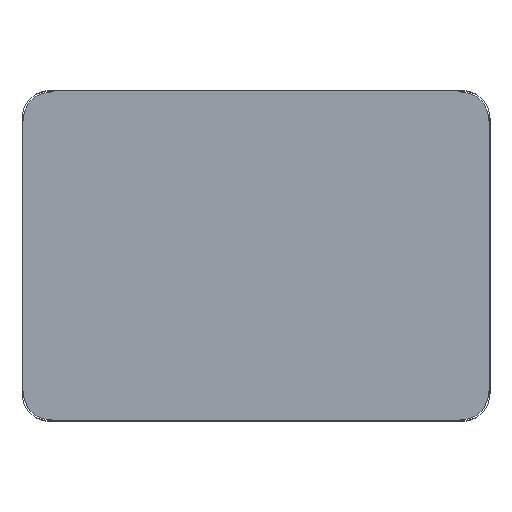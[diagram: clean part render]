
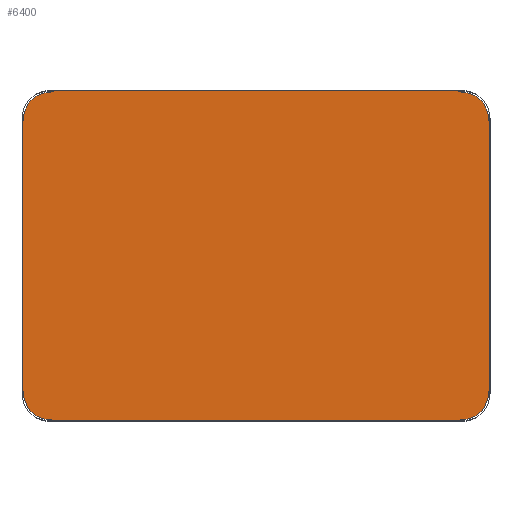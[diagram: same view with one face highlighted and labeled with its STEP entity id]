
A CAD part, top view. The second image highlights one B-rep face of the part: STEP entity #6400.
In plain terms, the highlighted planar face has unit normal (0, 0, 1).
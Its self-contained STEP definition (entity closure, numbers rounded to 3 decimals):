
#4210=CARTESIAN_POINT('',(1515.824,-863.75,516.6));
#4220=DIRECTION('',(0.,0.,1.));
#4230=DIRECTION('',(0.5,-0.866,
0.));
#4240=AXIS2_PLACEMENT_3D('',#4210,#4220,#4230);
#4250=PLANE('',#4240);
#4260=CARTESIAN_POINT('',(1883.,-684.,516.6));
#4270=DIRECTION('',(0.,1.,0.));
#4280=VECTOR('',#4270,1.);
#4290=LINE('',#4260,#4280);
#4300=CARTESIAN_POINT('',(1883.,-836.343,516.6));
#4310=VERTEX_POINT('',#4300);
#4320=CARTESIAN_POINT('',(1883.,-351.657,516.6));
#4330=VERTEX_POINT('',#4320);
#4340=EDGE_CURVE('',#4310,#4330,#4290,.T.);
#4350=ORIENTED_EDGE('',*,*,#4340,.T.);
#4360=CARTESIAN_POINT('',(1880.,-836.343,516.6));
#4370=DIRECTION('',(0.,0.,-1.));
#4380=DIRECTION('',(-1.,0.,0.));
#4390=AXIS2_PLACEMENT_3D('',#4360,#4370,#4380);
#4400=CIRCLE('',#4390,3.);
#4410=CARTESIAN_POINT('',(1882.333,-838.229,516.6));
#4420=VERTEX_POINT('',#4410);
#4430=EDGE_CURVE('',#4310,#4420,#4400,.T.);
#4440=ORIENTED_EDGE('',*,*,#4430,.F.);
#4450=CARTESIAN_POINT('',(1887.,-842.,516.6));
#4460=DIRECTION('',(0.,0.,1.));
#4470=DIRECTION('',(-1.,0.,0.));
#4480=AXIS2_PLACEMENT_3D('',#4450,#4460,#4470);
#4490=CIRCLE('',#4480,6.);
#4500=CARTESIAN_POINT('',(1881.,-842.,516.6));
#4510=VERTEX_POINT('',#4500);
#4520=EDGE_CURVE('',#4420,#4510,#4490,.T.);
#4530=ORIENTED_EDGE('',*,*,#4520,.F.);
#4540=CARTESIAN_POINT('',(1831.,-842.,516.6));
#4550=DIRECTION('',(0.,0.,-1.));
#4560=DIRECTION('',(-1.,0.,0.));
#4570=AXIS2_PLACEMENT_3D('',#4540,#4550,#4560);
#4580=CIRCLE('',#4570,50.);
#4590=CARTESIAN_POINT('',(1831.,-892.,516.6));
#4600=VERTEX_POINT('',#4590);
#4610=EDGE_CURVE('',#4510,#4600,#4580,.T.);
#4620=ORIENTED_EDGE('',*,*,#4610,.F.);
#4630=CARTESIAN_POINT('',(1831.,-898.,516.6));
#4640=DIRECTION('',(0.,0.,1.));
#4650=DIRECTION('',(-1.,0.,0.));
#4660=AXIS2_PLACEMENT_3D('',#4630,#4640,#4650);
#4670=CIRCLE('',#4660,6.);
#4680=CARTESIAN_POINT('',(1827.229,-893.333,516.6));
#4690=VERTEX_POINT('',#4680);
#4700=EDGE_CURVE('',#4600,#4690,#4670,.T.);
#4710=ORIENTED_EDGE('',*,*,#4700,.F.);
#4720=CARTESIAN_POINT('',(1825.343,-891.,516.6));
#4730=DIRECTION('',(0.,0.,-1.));
#4740=DIRECTION('',(-1.,0.,0.));
#4750=AXIS2_PLACEMENT_3D('',#4720,#4730,#4740);
#4760=CIRCLE('',#4750,3.);
#4770=CARTESIAN_POINT('',(1825.343,-894.,516.6));
#4780=VERTEX_POINT('',#4770);
#4790=EDGE_CURVE('',#4690,#4780,#4760,.T.);
#4800=ORIENTED_EDGE('',*,*,#4790,.F.);
#4810=CARTESIAN_POINT('',(1533.,-894.,516.6));
#4820=DIRECTION('',(1.,0.,0.));
#4830=VECTOR('',#4820,1.);
#4840=LINE('',#4810,#4830);
#4850=CARTESIAN_POINT('',(1090.657,-894.,516.6));
#4860=VERTEX_POINT('',#4850);
#4870=EDGE_CURVE('',#4860,#4780,#4840,.T.);
#4880=ORIENTED_EDGE('',*,*,#4870,.T.);
#4890=CARTESIAN_POINT('',(1090.657,-891.,516.6));
#4900=DIRECTION('',(0.,0.,-1.));
#4910=DIRECTION('',(-1.,0.,0.));
#4920=AXIS2_PLACEMENT_3D('',#4890,#4900,#4910);
#4930=CIRCLE('',#4920,3.);
#4940=CARTESIAN_POINT('',(1088.771,-893.333,516.6));
#4950=VERTEX_POINT('',#4940);
#4960=EDGE_CURVE('',#4860,#4950,#4930,.T.);
#4970=ORIENTED_EDGE('',*,*,#4960,.F.);
#4980=CARTESIAN_POINT('',(1085.,-898.,516.6));
#4990=DIRECTION('',(0.,0.,1.));
#5000=DIRECTION('',(-1.,0.,0.));
#5010=AXIS2_PLACEMENT_3D('',#4980,#4990,#5000);
#5020=CIRCLE('',#5010,6.);
#5030=CARTESIAN_POINT('',(1085.,-892.,516.6));
#5040=VERTEX_POINT('',#5030);
#5050=EDGE_CURVE('',#4950,#5040,#5020,.T.);
#5060=ORIENTED_EDGE('',*,*,#5050,.F.);
#5070=CARTESIAN_POINT('',(1085.,-842.,516.6));
#5080=DIRECTION('',(0.,0.,-1.));
#5090=DIRECTION('',(-1.,0.,0.));
#5100=AXIS2_PLACEMENT_3D('',#5070,#5080,#5090);
#5110=CIRCLE('',#5100,50.);
#5120=CARTESIAN_POINT('',(1035.,-842.,516.6));
#5130=VERTEX_POINT('',#5120);
#5140=EDGE_CURVE('',#5040,#5130,#5110,.T.);
#5150=ORIENTED_EDGE('',*,*,#5140,.F.);
#5160=CARTESIAN_POINT('',(1029.,-842.,516.6));
#5170=DIRECTION('',(0.,0.,1.));
#5180=DIRECTION('',(-1.,0.,0.));
#5190=AXIS2_PLACEMENT_3D('',#5160,#5170,#5180);
#5200=CIRCLE('',#5190,6.);
#5210=CARTESIAN_POINT('',(1033.667,-838.229,516.6));
#5220=VERTEX_POINT('',#5210);
#5230=EDGE_CURVE('',#5130,#5220,#5200,.T.);
#5240=ORIENTED_EDGE('',*,*,#5230,.F.);
#5250=CARTESIAN_POINT('',(1036.,-836.343,516.6));
#5260=DIRECTION('',(0.,0.,-1.));
#5270=DIRECTION('',(-1.,0.,0.));
#5280=AXIS2_PLACEMENT_3D('',#5250,#5260,#5270);
#5290=CIRCLE('',#5280,3.);
#5300=CARTESIAN_POINT('',(1033.,-836.343,516.6));
#5310=VERTEX_POINT('',#5300);
#5320=EDGE_CURVE('',#5220,#5310,#5290,.T.);
#5330=ORIENTED_EDGE('',*,*,#5320,.F.);
#5340=CARTESIAN_POINT('',(1033.,-684.,516.6));
#5350=DIRECTION('',(0.,-1.,0.));
#5360=VECTOR('',#5350,1.);
#5370=LINE('',#5340,#5360);
#5380=CARTESIAN_POINT('',(1033.,-351.657,516.6));
#5390=VERTEX_POINT('',#5380);
#5400=EDGE_CURVE('',#5390,#5310,#5370,.T.);
#5410=ORIENTED_EDGE('',*,*,#5400,.T.);
#5420=CARTESIAN_POINT('',(1036.,-351.657,516.6));
#5430=DIRECTION('',(0.,0.,-1.));
#5440=DIRECTION('',(-1.,0.,0.));
#5450=AXIS2_PLACEMENT_3D('',#5420,#5430,#5440);
#5460=CIRCLE('',#5450,3.);
#5470=CARTESIAN_POINT('',(1033.667,-349.771,516.6));
#5480=VERTEX_POINT('',#5470);
#5490=EDGE_CURVE('',#5390,#5480,#5460,.T.);
#5500=ORIENTED_EDGE('',*,*,#5490,.F.);
#5510=CARTESIAN_POINT('',(1029.,-346.,516.6));
#5520=DIRECTION('',(0.,0.,1.));
#5530=DIRECTION('',(-1.,0.,0.));
#5540=AXIS2_PLACEMENT_3D('',#5510,#5520,#5530);
#5550=CIRCLE('',#5540,6.);
#5560=CARTESIAN_POINT('',(1035.,-346.,516.6));
#5570=VERTEX_POINT('',#5560);
#5580=EDGE_CURVE('',#5480,#5570,#5550,.T.);
#5590=ORIENTED_EDGE('',*,*,#5580,.F.);
#5600=CARTESIAN_POINT('',(1085.,-346.,516.6));
#5610=DIRECTION('',(0.,0.,-1.));
#5620=DIRECTION('',(-1.,0.,0.));
#5630=AXIS2_PLACEMENT_3D('',#5600,#5610,#5620);
#5640=CIRCLE('',#5630,50.);
#5650=CARTESIAN_POINT('',(1085.,-296.,516.6));
#5660=VERTEX_POINT('',#5650);
#5670=EDGE_CURVE('',#5570,#5660,#5640,.T.);
#5680=ORIENTED_EDGE('',*,*,#5670,.F.);
#5690=CARTESIAN_POINT('',(1085.,-290.,516.6));
#5700=DIRECTION('',(0.,0.,1.));
#5710=DIRECTION('',(-1.,0.,0.));
#5720=AXIS2_PLACEMENT_3D('',#5690,#5700,#5710);
#5730=CIRCLE('',#5720,6.);
#5740=CARTESIAN_POINT('',(1088.771,-294.667,516.6));
#5750=VERTEX_POINT('',#5740);
#5760=EDGE_CURVE('',#5660,#5750,#5730,.T.);
#5770=ORIENTED_EDGE('',*,*,#5760,.F.);
#5780=CARTESIAN_POINT('',(1090.657,-297.,516.6));
#5790=DIRECTION('',(0.,0.,-1.));
#5800=DIRECTION('',(-1.,0.,0.));
#5810=AXIS2_PLACEMENT_3D('',#5780,#5790,#5800);
#5820=CIRCLE('',#5810,3.);
#5830=CARTESIAN_POINT('',(1090.657,-294.,516.6));
#5840=VERTEX_POINT('',#5830);
#5850=EDGE_CURVE('',#5750,#5840,#5820,.T.);
#5860=ORIENTED_EDGE('',*,*,#5850,.F.);
#5870=CARTESIAN_POINT('',(1533.,-294.,516.6));
#5880=DIRECTION('',(-1.,0.,0.));
#5890=VECTOR('',#5880,1.);
#5900=LINE('',#5870,#5890);
#5910=CARTESIAN_POINT('',(1825.343,-294.,516.6));
#5920=VERTEX_POINT('',#5910);
#5930=EDGE_CURVE('',#5920,#5840,#5900,.T.);
#5940=ORIENTED_EDGE('',*,*,#5930,.T.);
#5950=CARTESIAN_POINT('',(1825.343,-297.,516.6));
#5960=DIRECTION('',(0.,0.,-1.));
#5970=DIRECTION('',(-1.,0.,0.));
#5980=AXIS2_PLACEMENT_3D('',#5950,#5960,#5970);
#5990=CIRCLE('',#5980,3.);
#6000=CARTESIAN_POINT('',(1827.229,-294.667,516.6));
#6010=VERTEX_POINT('',#6000);
#6020=EDGE_CURVE('',#5920,#6010,#5990,.T.);
#6030=ORIENTED_EDGE('',*,*,#6020,.F.);
#6040=CARTESIAN_POINT('',(1831.,-290.,516.6));
#6050=DIRECTION('',(0.,0.,1.));
#6060=DIRECTION('',(-1.,0.,0.));
#6070=AXIS2_PLACEMENT_3D('',#6040,#6050,#6060);
#6080=CIRCLE('',#6070,6.);
#6090=CARTESIAN_POINT('',(1831.,-296.,516.6));
#6100=VERTEX_POINT('',#6090);
#6110=EDGE_CURVE('',#6010,#6100,#6080,.T.);
#6120=ORIENTED_EDGE('',*,*,#6110,.F.);
#6130=CARTESIAN_POINT('',(1831.,-346.,516.6));
#6140=DIRECTION('',(0.,0.,-1.));
#6150=DIRECTION('',(-1.,0.,0.));
#6160=AXIS2_PLACEMENT_3D('',#6130,#6140,#6150);
#6170=CIRCLE('',#6160,50.);
#6180=CARTESIAN_POINT('',(1881.,-346.,516.6));
#6190=VERTEX_POINT('',#6180);
#6200=EDGE_CURVE('',#6100,#6190,#6170,.T.);
#6210=ORIENTED_EDGE('',*,*,#6200,.F.);
#6220=CARTESIAN_POINT('',(1887.,-346.,516.6));
#6230=DIRECTION('',(0.,0.,1.));
#6240=DIRECTION('',(-1.,0.,0.));
#6250=AXIS2_PLACEMENT_3D('',#6220,#6230,#6240);
#6260=CIRCLE('',#6250,6.);
#6270=CARTESIAN_POINT('',(1882.333,-349.771,516.6));
#6280=VERTEX_POINT('',#6270);
#6290=EDGE_CURVE('',#6190,#6280,#6260,.T.);
#6300=ORIENTED_EDGE('',*,*,#6290,.F.);
#6310=CARTESIAN_POINT('',(1880.,-351.657,516.6));
#6320=DIRECTION('',(0.,0.,-1.));
#6330=DIRECTION('',(-1.,0.,0.));
#6340=AXIS2_PLACEMENT_3D('',#6310,#6320,#6330);
#6350=CIRCLE('',#6340,3.);
#6360=EDGE_CURVE('',#6280,#4330,#6350,.T.);
#6370=ORIENTED_EDGE('',*,*,#6360,.F.);
#6380=EDGE_LOOP('',(#6370,#6300,#6210,#6120,#6030,#5940,#5860,#5770,
#5680,#5590,#5500,#5410,#5330,#5240,#5150,#5060,#4970,#4880,#4800,#4710,
#4620,#4530,#4440,#4350));
#6390=FACE_OUTER_BOUND('',#6380,.T.);
#6400=ADVANCED_FACE('',(#6390),#4250,.T.);
